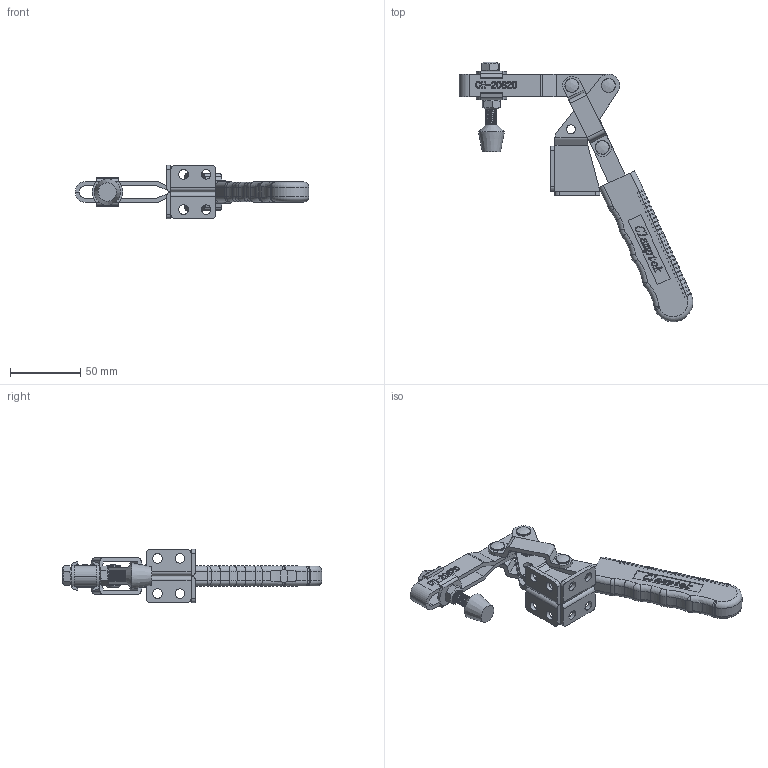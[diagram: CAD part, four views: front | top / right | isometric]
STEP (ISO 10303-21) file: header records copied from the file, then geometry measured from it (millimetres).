
FILE_DESCRIPTION(/* description */ ('STEP AP203'),/* implementation_level */ '2;1');
FILE_NAME(/* name */ 'E:\STRONA\Horizontal toggle clamp\CH-20820\CH-20820_ZAMKNIETY.stp',/* time_stamp */ '2019-01-15T16:22:38+01:00',/* author */ ('Admin'),/* organization */ ('Î¢ÈíÖÐ¹ú'),/* preprocessor_version */ 'ST-DEVELOPER v17.2',/* originating_system */ 'Autodesk Inventor 2019',/* authorisation */ '');
FILE_SCHEMA (('AUTOMOTIVE_DESIGN { 1 0 10303 214 3 1 1 }'));
Products named in the file (10): CH-20820_ZAMKNIETY; 20820-02; 56212; 20820-03; CH-20820-05; 20820-01; 20820-06; FW516; 56212-02; 20820-04
Assembly tree (15 placements, depth 2):
  CH-20820_ZAMKNIETY
    20820-02
    20820-06  x4
    56212
    20820-03
    FW516  x2
    20820-04  x2
    CH-20820-05
    56212-02  x2
    20820-01
Bounding box: 165.93 x 184.3 x 38 mm (x, y, z)
Volume: 86528.9 mm3; surface area: 53459.6 mm2
Topology: 19 solids, 19 shells, 1389 faces, 3686 edges, 2391 vertices
Faces by surface type: plane 604, bspline 362, cylinder 305, torus 92, cone 16, sphere 10
Full cylindrical faces by diameter (mm): 3 x1, 4.4 x1, 4.646 x4, 6.3 x12, 6.4 x14, 6.7 x8, 7.92 x32, 8.1 x2, 10 x8
Entity records: 72394 total; most frequent: CARTESIAN_POINT 42016, ORIENTED_EDGE 6858, DIRECTION 5125, EDGE_CURVE 3429, VERTEX_POINT 2216, LINE 2001, VECTOR 2001, AXIS2_PLACEMENT_3D 1562
